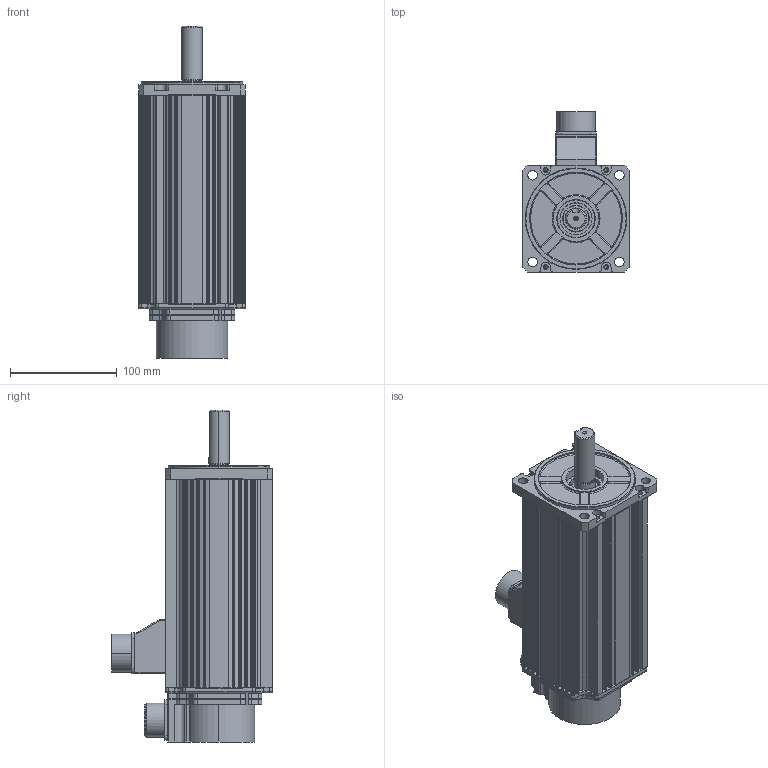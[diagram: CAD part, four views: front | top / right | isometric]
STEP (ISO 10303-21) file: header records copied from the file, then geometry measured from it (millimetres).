
FILE_DESCRIPTION (( 'STEP AP214' ), '1' );
FILE_NAME ('KANS-25B¡à1B2.STEP', '2026-09-11T23:14:16', ( '' ), ( '' ), 'SwSTEP 2.0', 'SolidWorks 2023', '' );
FILE_SCHEMA (( 'AUTOMOTIVE_DESIGN' ));
Length unit declared in the file: millimetre
Products named in the file (10): 10050579 CONNECTOR BOX_MS20; □100 BRACKET_BR; Ø19-KEY6X42; KANS-25B□1B2; MS3102A 20_표준; MS3102A 20-29P; 1006002202 ENCODER COVER; 10060024(ENCODER COVER ADAPTOR,□100,□120); □100-195mm; □100 FLANGE
Assembly tree (9 placements, depth 2):
  KANS-25B□1B2
    □100-195mm
    □100 FLANGE
    □100 BRACKET_BR
    10060024(ENCODER COVER ADAPTOR,□100,□120)
    1006002202 ENCODER COVER
    MS3102A 20-29P
    10050579 CONNECTOR BOX_MS20
    MS3102A 20_표준
    Ø19-KEY6X42
Bounding box: 100 x 150.55 x 311 mm (x, y, z)
Volume: 539578.1 mm3; surface area: 315401.3 mm2
Topology: 9 solids, 9 shells, 1787 faces, 4924 edges, 3182 vertices
Faces by surface type: plane 794, cylinder 788, torus 74, cone 64, bspline 35, sphere 32
Entity records: 58629 total; most frequent: CARTESIAN_POINT 11693, DIRECTION 10107, ORIENTED_EDGE 9728, EDGE_CURVE 4864, AXIS2_PLACEMENT_3D 3614, VERTEX_POINT 3174, VECTOR 2879, LINE 2879
